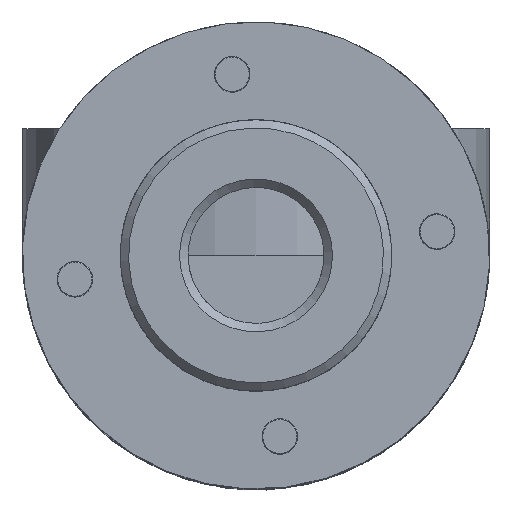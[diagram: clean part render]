
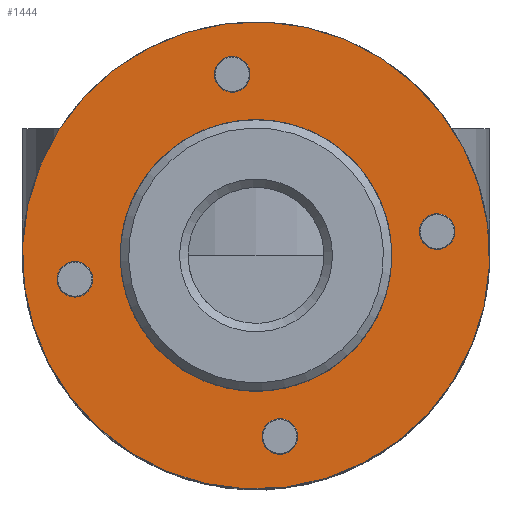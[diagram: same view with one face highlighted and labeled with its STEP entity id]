
A CAD part, top view. The second image highlights one B-rep face of the part: STEP entity #1444.
In plain terms, the highlighted planar face has unit normal (0, 0, 1) as drawn and (0, -1, 0) by its records, which use the part's own axes.
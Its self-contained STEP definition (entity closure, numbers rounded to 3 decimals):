
#1444 = ADVANCED_FACE( '', ( #2706, #2707, #2708, #2709, #2710, #2711 ), #2712, .F. );
#2706 = FACE_BOUND( '', #3365, .T. );
#2707 = FACE_BOUND( '', #3366, .T. );
#2708 = FACE_BOUND( '', #3367, .T. );
#2709 = FACE_BOUND( '', #3368, .T. );
#2710 = FACE_BOUND( '', #3369, .T. );
#2711 = FACE_OUTER_BOUND( '', #3370, .T. );
#2712 = PLANE( '', #3371 );
#3365 = EDGE_LOOP( '', ( #4567 ) );
#3366 = EDGE_LOOP( '', ( #4568 ) );
#3367 = EDGE_LOOP( '', ( #4569 ) );
#3368 = EDGE_LOOP( '', ( #4570 ) );
#3369 = EDGE_LOOP( '', ( #4571 ) );
#3370 = EDGE_LOOP( '', ( #4572 ) );
#3371 = AXIS2_PLACEMENT_3D( '', #4573, #4574, #4575 );
#4567 = ORIENTED_EDGE( '', *, *, #5749, .F. );
#4568 = ORIENTED_EDGE( '', *, *, #5750, .F. );
#4569 = ORIENTED_EDGE( '', *, *, #5751, .F. );
#4570 = ORIENTED_EDGE( '', *, *, #5752, .F. );
#4571 = ORIENTED_EDGE( '', *, *, #5753, .F. );
#4572 = ORIENTED_EDGE( '', *, *, #5746, .T. );
#4573 = CARTESIAN_POINT( '', ( 0., 0., 27.5 ) );
#4574 = DIRECTION( '', ( 0., 1., 0. ) );
#4575 = DIRECTION( '', ( 0., 0., 1. ) );
#5746 = EDGE_CURVE( '', #6574, #6574, #6575, .T. );
#5749 = EDGE_CURVE( '', #6580, #6580, #6581, .T. );
#5750 = EDGE_CURVE( '', #6582, #6582, #6583, .T. );
#5751 = EDGE_CURVE( '', #6584, #6584, #6585, .T. );
#5752 = EDGE_CURVE( '', #6586, #6586, #6587, .T. );
#5753 = EDGE_CURVE( '', #6588, #6588, #6589, .T. );
#6574 = VERTEX_POINT( '', #7202 );
#6575 = CIRCLE( '', #7203, 27.5 );
#6580 = VERTEX_POINT( '', #7208 );
#6581 = CIRCLE( '', #7209, 2.1 );
#6582 = VERTEX_POINT( '', #7210 );
#6583 = CIRCLE( '', #7211, 2.1 );
#6584 = VERTEX_POINT( '', #7212 );
#6585 = CIRCLE( '', #7213, 2.1 );
#6586 = VERTEX_POINT( '', #7214 );
#6587 = CIRCLE( '', #7215, 2.1 );
#6588 = VERTEX_POINT( '', #7216 );
#6589 = CIRCLE( '', #7217, 16. );
#7202 = CARTESIAN_POINT( '', ( 0., 0., -27.5 ) );
#7203 = AXIS2_PLACEMENT_3D( '', #7659, #7660, #7661 );
#7208 = CARTESIAN_POINT( '', ( -21.5, 0., 2.1 ) );
#7209 = AXIS2_PLACEMENT_3D( '', #7668, #7669, #7670 );
#7210 = CARTESIAN_POINT( '', ( -2.1, 0., -21.5 ) );
#7211 = AXIS2_PLACEMENT_3D( '', #7671, #7672, #7673 );
#7212 = CARTESIAN_POINT( '', ( 21.5, 0., -2.1 ) );
#7213 = AXIS2_PLACEMENT_3D( '', #7674, #7675, #7676 );
#7214 = CARTESIAN_POINT( '', ( 2.1, 0., 21.5 ) );
#7215 = AXIS2_PLACEMENT_3D( '', #7677, #7678, #7679 );
#7216 = CARTESIAN_POINT( '', ( 0., 0., -16. ) );
#7217 = AXIS2_PLACEMENT_3D( '', #7680, #7681, #7682 );
#7659 = CARTESIAN_POINT( '', ( 0., 0., 0. ) );
#7660 = DIRECTION( '', ( 0., -1., 0. ) );
#7661 = DIRECTION( '', ( 0., 0., -1. ) );
#7668 = CARTESIAN_POINT( '', ( -21.5, 0., 0. ) );
#7669 = DIRECTION( '', ( 0., -1., 0. ) );
#7670 = DIRECTION( '', ( 0., 0., 1. ) );
#7671 = CARTESIAN_POINT( '', ( 0., 0., -21.5 ) );
#7672 = DIRECTION( '', ( 0., -1., 0. ) );
#7673 = DIRECTION( '', ( -1., 0., 0. ) );
#7674 = CARTESIAN_POINT( '', ( 21.5, 0., 0. ) );
#7675 = DIRECTION( '', ( 0., -1., 0. ) );
#7676 = DIRECTION( '', ( 0., 0., -1. ) );
#7677 = CARTESIAN_POINT( '', ( 0., 0., 21.5 ) );
#7678 = DIRECTION( '', ( 0., -1., 0. ) );
#7679 = DIRECTION( '', ( 1., 0., 0. ) );
#7680 = CARTESIAN_POINT( '', ( 0., 0., 0. ) );
#7681 = DIRECTION( '', ( 0., -1., 0. ) );
#7682 = DIRECTION( '', ( 0., 0., -1. ) );
